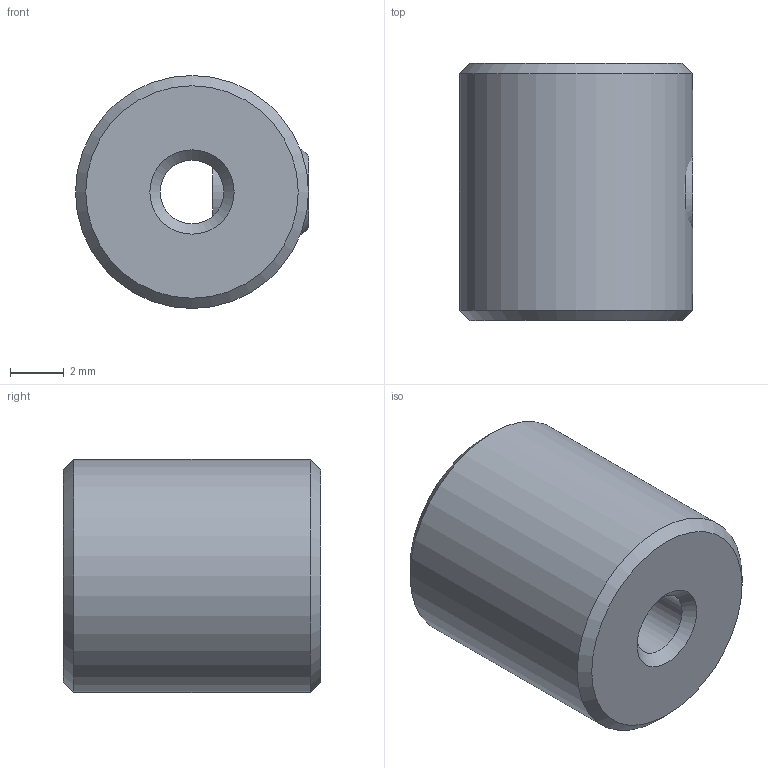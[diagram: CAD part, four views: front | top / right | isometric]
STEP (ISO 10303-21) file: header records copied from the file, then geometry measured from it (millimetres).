
FILE_DESCRIPTION(/* description */ (''),/* implementation_level */ '2;1');
FILE_NAME(/* name */ 'C:/Users/drich/Desktop/D-125 v3.step',/* time_stamp */ '2020-01-08T19:14:46-06:00',/* author */ (''),/* organization */ (''),/* preprocessor_version */ 'ST-DEVELOPER v18',/* originating_system */ 'Autodesk Translation Framework v8.12.0.6',/* authorisation */ '');
FILE_SCHEMA (('AUTOMOTIVE_DESIGN { 1 0 10303 214 3 1 1 }'));
Length unit declared in the file: inch
Products named in the file (1): D-125
Bounding box: 8.64 x 9.53 x 8.64 mm (x, y, z)
Volume: 533.9 mm3; surface area: 485 mm2
Topology: 2 solids, 2 shells, 26 faces, 59 edges, 39 vertices
Faces by surface type: plane 18, cone 5, cylinder 3
Full cylindrical faces by diameter (mm): 2.362 x1, 3.175 x1, 8.636 x1
Entity records: 779 total; most frequent: DIRECTION 132, CARTESIAN_POINT 125, ORIENTED_EDGE 118, EDGE_CURVE 59, AXIS2_PLACEMENT_3D 46, LINE 40, VECTOR 40, VERTEX_POINT 39
